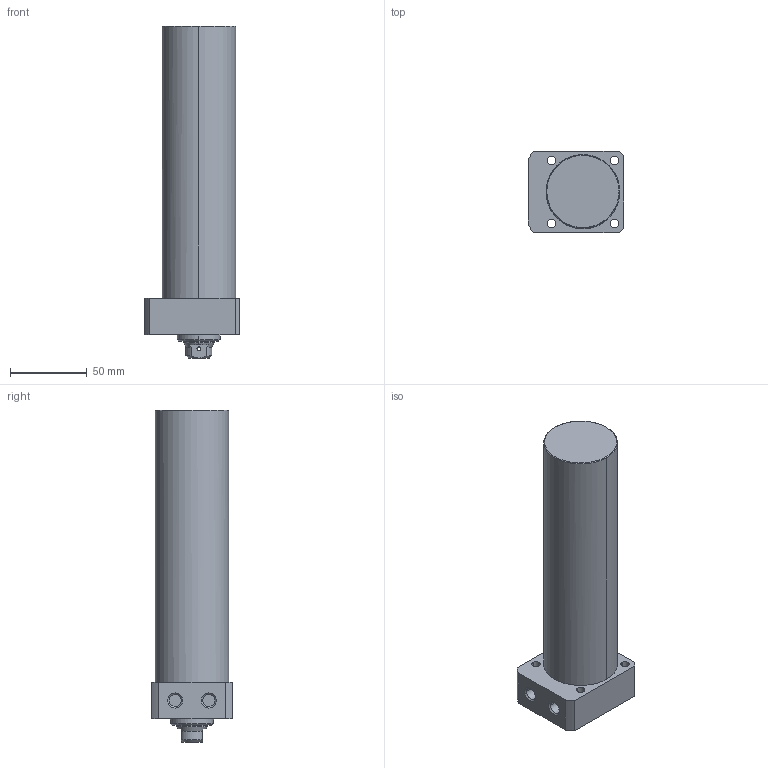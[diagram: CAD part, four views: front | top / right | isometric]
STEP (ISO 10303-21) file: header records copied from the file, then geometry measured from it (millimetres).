
FILE_DESCRIPTION((' '),'2;1');
FILE_NAME( 'TLLR-048CB-150.STEP.stp', '2025-10-24T16:34:35', (' '), ('--- Datakit www.datakit.com---'), ' Datakit CrossCadWare V2024.1 Dec 21 2023', 'Mastercam 2025', ' ');
FILE_SCHEMA(('AUTOMOTIVE_DESIGN { 1 0 10303 214 1 1 1 1 }'));
Length unit declared in the file: millimetre
Products named in the file (1): TLLR-048CB-150
Bounding box: 62 x 53 x 216 mm (x, y, z)
Volume: 398605.8 mm3; surface area: 42093 mm2
Topology: 1 solids, 1 shells, 67 faces, 197 edges, 136 vertices
Faces by surface type: cylinder 32, plane 19, cone 14, torus 2
Entity records: 3066 total; most frequent: CARTESIAN_POINT 1147, DIRECTION 426, ORIENTED_EDGE 390, EDGE_CURVE 195, AXIS2_PLACEMENT_3D 179, VERTEX_POINT 136, CIRCLE 111, EDGE_LOOP 85
